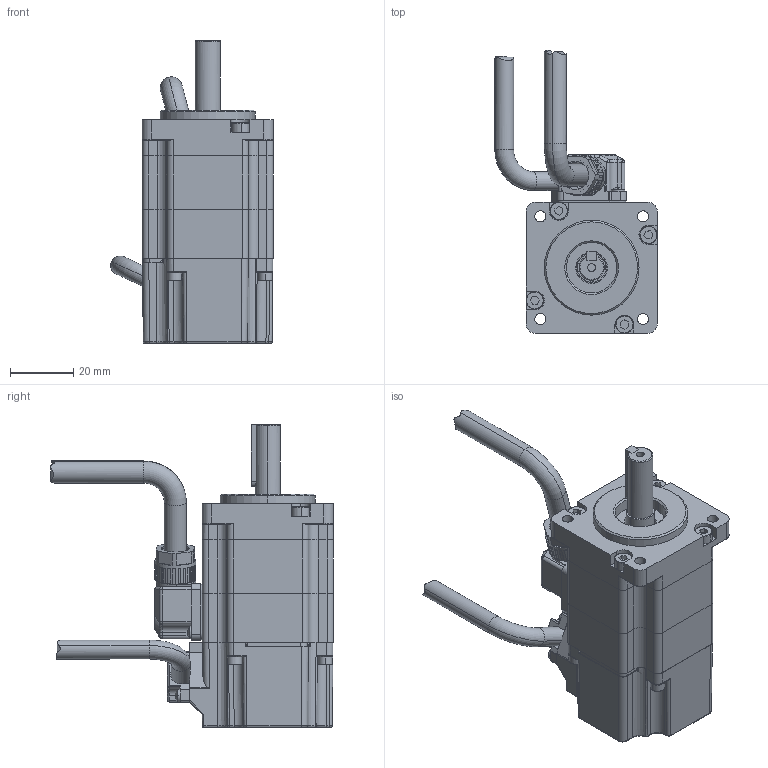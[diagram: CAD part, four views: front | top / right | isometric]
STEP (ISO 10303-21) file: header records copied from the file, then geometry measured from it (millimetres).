
FILE_DESCRIPTION (( 'STEP AP203' ), '1' );
FILE_NAME ('z40 50W Final.STEP', '2010-03-03T04:18:06', ( '' ), ( '' ), 'SwSTEP 2.0', 'SolidWorks 2011', '' );
FILE_SCHEMA (( 'CONFIG_CONTROL_DESIGN' ));
Products named in the file (1): z40 50W Final
Bounding box: 51.41 x 89.45 x 95.8 mm (x, y, z)
Volume: 96348.3 mm3; surface area: 47872.7 mm2
Topology: 26 solids, 28 shells, 1291 faces, 3277 edges, 2086 vertices
Faces by surface type: plane 551, cylinder 510, bspline 124, cone 84, torus 16, sphere 6
Entity records: 52134 total; most frequent: CARTESIAN_POINT 21819, ORIENTED_EDGE 6512, DIRECTION 6057, EDGE_CURVE 3256, AXIS2_PLACEMENT_3D 2217, VERTEX_POINT 2086, LINE 1623, VECTOR 1623
